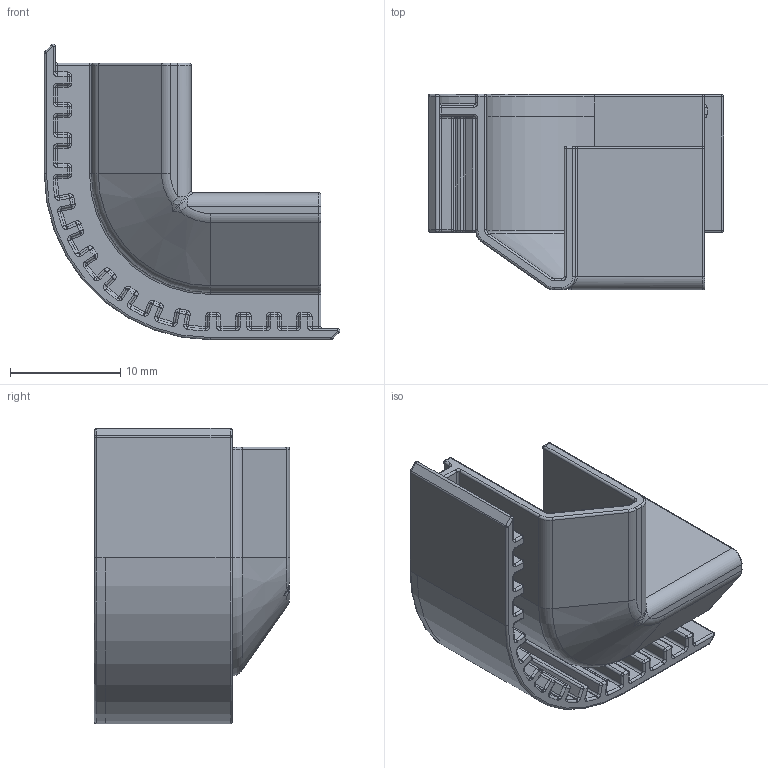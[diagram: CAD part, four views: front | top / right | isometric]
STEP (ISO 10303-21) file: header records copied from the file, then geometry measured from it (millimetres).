
FILE_DESCRIPTION (( 'STEP AP203' ), '1' );
FILE_NAME ('Edge - Ext Corner - V2.STEP', '2024-06-14T07:16:06', ( '' ), ( '' ), 'SwSTEP 2.0', 'SolidWorks 2020', '' );
FILE_SCHEMA (( 'CONFIG_CONTROL_DESIGN' ));
Length unit declared in the file: millimetre
Products named in the file (1): Edge - Ext Corner - V2
Bounding box: 26.77 x 17.7 x 26.77 mm (x, y, z)
Volume: 1938.3 mm3; surface area: 3939.8 mm2
Topology: 1 solids, 1 shells, 546 faces, 1268 edges, 647 vertices
Faces by surface type: cylinder 252, torus 134, sphere 76, plane 75, bspline 7, cone 2
Entity records: 14886 total; most frequent: DIRECTION 2972, CARTESIAN_POINT 2526, ORIENTED_EDGE 2382, AXIS2_PLACEMENT_3D 1251, EDGE_CURVE 1191, CIRCLE 711, VERTEX_POINT 647, FACE_OUTER_BOUND 546
